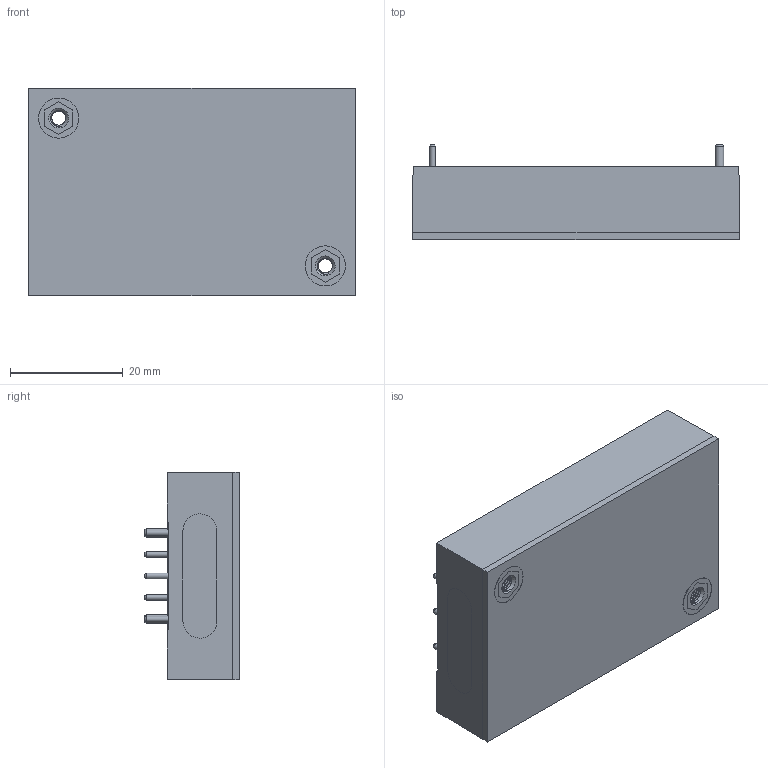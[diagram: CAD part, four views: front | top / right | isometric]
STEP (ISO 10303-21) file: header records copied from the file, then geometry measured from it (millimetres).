
FILE_DESCRIPTION (( 'STEP AP203' ), '1' );
FILE_NAME ('CQB50W8-36S 2023.07.28.STEP', '2023-07-28T01:27:00', ( '' ), ( '' ), 'SwSTEP 2.0', 'SolidWorks 2020', '' );
FILE_SCHEMA (( 'CONFIG_CONTROL_DESIGN' ));
Length unit declared in the file: millimetre
Products named in the file (1): CQB50W8-36S 2023.07.28
Bounding box: 57.9 x 16.8 x 36.8 mm (x, y, z)
Volume: 26874.9 mm3; surface area: 7947.1 mm2
Topology: 3 solids, 3 shells, 495 faces, 1268 edges, 845 vertices
Faces by surface type: plane 323, bspline 127, cylinder 23, cone 22
Full cylindrical faces by diameter (mm): 1.02 x6, 1.5 x2, 3.9 x2, 4.2 x5, 7.1 x2
Entity records: 25985 total; most frequent: CARTESIAN_POINT 14975, ORIENTED_EDGE 2420, DIRECTION 1760, EDGE_CURVE 1210, VECTOR 854, LINE 854, VERTEX_POINT 826, EDGE_LOOP 608
